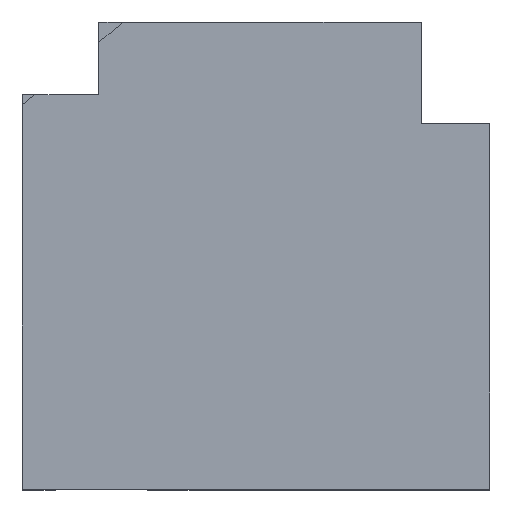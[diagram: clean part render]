
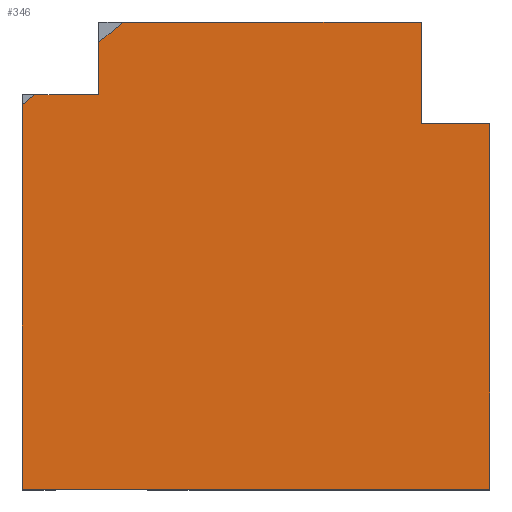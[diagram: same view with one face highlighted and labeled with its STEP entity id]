
A CAD part, top view. The second image highlights one B-rep face of the part: STEP entity #346.
In plain terms, the highlighted planar face has unit normal (0, 0, 1).
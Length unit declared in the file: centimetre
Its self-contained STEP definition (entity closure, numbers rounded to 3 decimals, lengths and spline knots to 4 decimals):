
#11 = EDGE_CURVE ( 'NONE', #1116, #962, #1170, .T. ) ;
#23 = ORIENTED_EDGE ( 'NONE', *, *, #1325, .T. ) ;
#24 = CARTESIAN_POINT ( 'NONE',  ( 0., 1000., 1000. ) ) ;
#28 = DIRECTION ( 'NONE',  ( 0., 1., 0. ) ) ;
#44 = CARTESIAN_POINT ( 'NONE',  ( 1000., 1000., 1000. ) ) ;
#46 = EDGE_CURVE ( 'NONE', #272, #340, #720, .T. ) ;
#105 = DIRECTION ( 'NONE',  ( 1., 0., 0. ) ) ;
#107 = VECTOR ( 'NONE', #595, 100. ) ;
#129 = VECTOR ( 'NONE', #698, 100. ) ;
#173 = LINE ( 'NONE', #1062, #732 ) ;
#221 = ORIENTED_EDGE ( 'NONE', *, *, #46, .F. ) ;
#240 = CARTESIAN_POINT ( 'NONE',  ( 163.2923, 844.5713, 1000. ) ) ;
#255 = LINE ( 'NONE', #1350, #129 ) ;
#272 = VERTEX_POINT ( 'NONE', #1226 ) ;
#276 = DIRECTION ( 'NONE',  ( 0., -1., 0. ) ) ;
#280 = VECTOR ( 'NONE', #276, 100. ) ;
#314 = EDGE_CURVE ( 'NONE', #272, #697, #358, .T. ) ;
#327 = VERTEX_POINT ( 'NONE', #679 ) ;
#340 = VERTEX_POINT ( 'NONE', #1362 ) ;
#346 = ADVANCED_FACE ( 'NONE', ( #674 ), #805, .T. ) ;
#358 = LINE ( 'NONE', #24, #1098 ) ;
#381 = ORIENTED_EDGE ( 'NONE', *, *, #1294, .T. ) ;
#391 = DIRECTION ( 'NONE',  ( 0., -1., 0. ) ) ;
#414 = EDGE_CURVE ( 'NONE', #855, #697, #255, .T. ) ;
#459 = EDGE_LOOP ( 'NONE', ( #221, #1018, #987, #1145, #1305, #1175, #381, #23, #1123, #1277 ) ) ;
#466 = DIRECTION ( 'NONE',  ( 0., 1., 0. ) ) ;
#542 = LINE ( 'NONE', #864, #817 ) ;
#557 = CARTESIAN_POINT ( 'NONE',  ( 26.5319, 844.5713, 1000. ) ) ;
#586 = CARTESIAN_POINT ( 'NONE',  ( 163.2923, 956.4265, 1000. ) ) ;
#595 = DIRECTION ( 'NONE',  ( 0.774, 0.633, 0. ) ) ;
#625 = LINE ( 'NONE', #1049, #944 ) ;
#674 = FACE_OUTER_BOUND ( 'NONE', #459, .T. ) ;
#679 = CARTESIAN_POINT ( 'NONE',  ( 0., 0., 1000. ) ) ;
#689 = EDGE_CURVE ( 'NONE', #962, #1083, #542, .T. ) ;
#697 = VERTEX_POINT ( 'NONE', #1316 ) ;
#698 = DIRECTION ( 'NONE',  ( 0.774, 0.633, 0. ) ) ;
#720 = LINE ( 'NONE', #1164, #280 ) ;
#732 = VECTOR ( 'NONE', #391, 100. ) ;
#758 = EDGE_CURVE ( 'NONE', #846, #1425, #1011, .T. ) ;
#786 = CARTESIAN_POINT ( 'NONE',  ( 1000., 0., 1000. ) ) ;
#791 = VECTOR ( 'NONE', #28, 100. ) ;
#792 = CARTESIAN_POINT ( 'NONE',  ( 0., 0., 1000. ) ) ;
#805 = PLANE ( 'NONE',  #1402 ) ;
#817 = VECTOR ( 'NONE', #105, 100. ) ;
#846 = VERTEX_POINT ( 'NONE', #786 ) ;
#855 = VERTEX_POINT ( 'NONE', #586 ) ;
#864 = CARTESIAN_POINT ( 'NONE',  ( 0., 844.5713, 1000. ) ) ;
#918 = VECTOR ( 'NONE', #466, 100. ) ;
#944 = VECTOR ( 'NONE', #1102, 100. ) ;
#956 = LINE ( 'NONE', #1403, #1117 ) ;
#962 = VERTEX_POINT ( 'NONE', #557 ) ;
#987 = ORIENTED_EDGE ( 'NONE', *, *, #414, .F. ) ;
#1011 = LINE ( 'NONE', #44, #918 ) ;
#1017 = LINE ( 'NONE', #240, #791 ) ;
#1018 = ORIENTED_EDGE ( 'NONE', *, *, #314, .T. ) ;
#1032 = DIRECTION ( 'NONE',  ( -1., 0., 0. ) ) ;
#1049 = CARTESIAN_POINT ( 'NONE',  ( 0., 0., 1000. ) ) ;
#1062 = CARTESIAN_POINT ( 'NONE',  ( 0., 1000., 1000. ) ) ;
#1083 = VERTEX_POINT ( 'NONE', #1165 ) ;
#1098 = VECTOR ( 'NONE', #1032, 100. ) ;
#1102 = DIRECTION ( 'NONE',  ( 1., 0., 0. ) ) ;
#1116 = VERTEX_POINT ( 'NONE', #1371 ) ;
#1117 = VECTOR ( 'NONE', #1172, 100. ) ;
#1123 = ORIENTED_EDGE ( 'NONE', *, *, #758, .T. ) ;
#1145 = ORIENTED_EDGE ( 'NONE', *, *, #1185, .F. ) ;
#1147 = DIRECTION ( 'NONE',  ( 0., 0., 1. ) ) ;
#1164 = CARTESIAN_POINT ( 'NONE',  ( 853.6114, 782.7747, 1000. ) ) ;
#1165 = CARTESIAN_POINT ( 'NONE',  ( 163.2923, 844.5713, 1000. ) ) ;
#1170 = LINE ( 'NONE', #1394, #107 ) ;
#1172 = DIRECTION ( 'NONE',  ( 1., 0., 0. ) ) ;
#1175 = ORIENTED_EDGE ( 'NONE', *, *, #11, .F. ) ;
#1185 = EDGE_CURVE ( 'NONE', #1083, #855, #1017, .T. ) ;
#1199 = CARTESIAN_POINT ( 'NONE',  ( 1000., 782.7747, 1000. ) ) ;
#1226 = CARTESIAN_POINT ( 'NONE',  ( 853.6114, 1000., 1000. ) ) ;
#1259 = EDGE_CURVE ( 'NONE', #340, #1425, #956, .T. ) ;
#1263 = DIRECTION ( 'NONE',  ( 1., 0., 0. ) ) ;
#1277 = ORIENTED_EDGE ( 'NONE', *, *, #1259, .F. ) ;
#1294 = EDGE_CURVE ( 'NONE', #1116, #327, #173, .T. ) ;
#1305 = ORIENTED_EDGE ( 'NONE', *, *, #689, .F. ) ;
#1316 = CARTESIAN_POINT ( 'NONE',  ( 216.5676, 1000., 1000. ) ) ;
#1325 = EDGE_CURVE ( 'NONE', #327, #846, #625, .T. ) ;
#1350 = CARTESIAN_POINT ( 'NONE',  ( 0., 822.8711, 1000. ) ) ;
#1362 = CARTESIAN_POINT ( 'NONE',  ( 853.6114, 782.7747, 1000. ) ) ;
#1371 = CARTESIAN_POINT ( 'NONE',  ( 0., 822.8711, 1000. ) ) ;
#1394 = CARTESIAN_POINT ( 'NONE',  ( 0., 822.8711, 1000. ) ) ;
#1402 = AXIS2_PLACEMENT_3D ( 'NONE', #792, #1147, #1263 ) ;
#1403 = CARTESIAN_POINT ( 'NONE',  ( 853.6114, 782.7747, 1000. ) ) ;
#1425 = VERTEX_POINT ( 'NONE', #1199 ) ;
